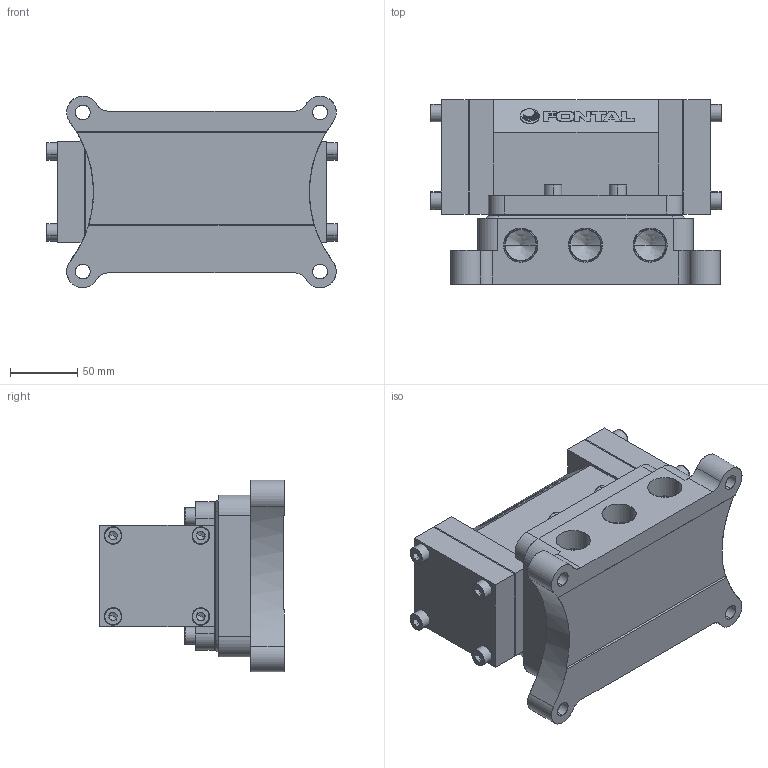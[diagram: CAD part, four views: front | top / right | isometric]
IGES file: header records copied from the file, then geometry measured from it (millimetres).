
Start section: SolidWorks IGES file using analytic representation for surfaces
Global section: file name: D:\Custom\3D繪製\VM\VM25\VMS2425-06.IGS,1; native system: 5HSolidWorks 2014; preprocessor: SolidWorks 2014; author: Chieh_Lu; date: 160114.023455; units: millimetre
Bounding box: 216 x 137 x 142 mm (x, y, z)
Surface area: 271026.6 mm2 (no closed solid volume)
Topology: 0 solids, 0 shells, 593 faces, 6896 edges, 6862 vertices
Faces by surface type: bspline 382, revolution 211
